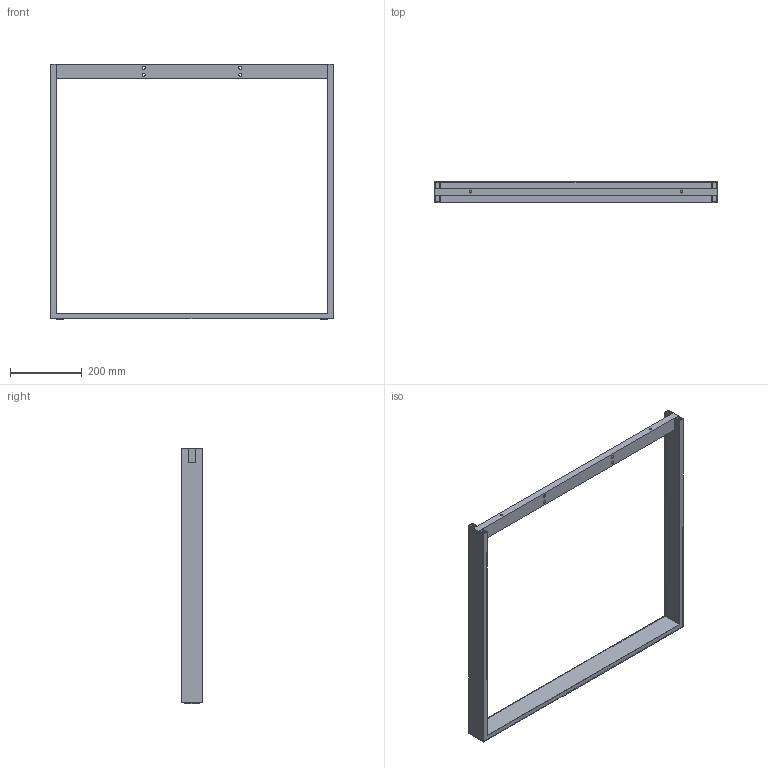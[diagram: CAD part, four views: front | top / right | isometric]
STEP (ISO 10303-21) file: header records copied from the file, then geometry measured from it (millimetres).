
FILE_DESCRIPTION( ( 'STEP AP214' ), '1' );
FILE_NAME( 'D:/Yug/2021/Delta/desk_and_office_organisation/QC/9133024.stp', '2021-01-19T12:25:24', ( '' ), ( '' ), ' ', 'PARTsolutions', ' ' );
FILE_SCHEMA( ( 'AUTOMOTIVE_DESIGN { 1 0 10303 214 1 1 1 1 }' ) );
Length unit declared in the file: millimetre
Products named in the file (1): _9133024
Bounding box: 790 x 60 x 715 mm (x, y, z)
Volume: 1095575.9 mm3; surface area: 722782.4 mm2
Topology: 1 solids, 1 shells, 42 faces, 126 edges, 84 vertices
Faces by surface type: plane 36, cylinder 6
Full cylindrical faces by diameter (mm): 7 x2, 9 x4
Entity records: 1764 total; most frequent: CARTESIAN_POINT 247, ORIENTED_EDGE 240, DIRECTION 218, EDGE_CURVE 120, LINE 108, VECTOR 108, VERTEX_POINT 84, EDGE_LOOP 66
